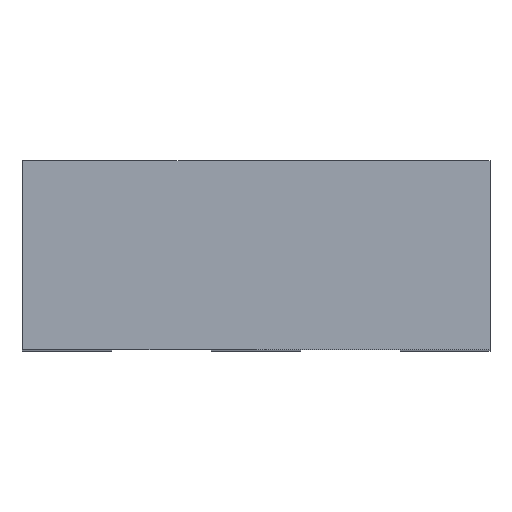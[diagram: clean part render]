
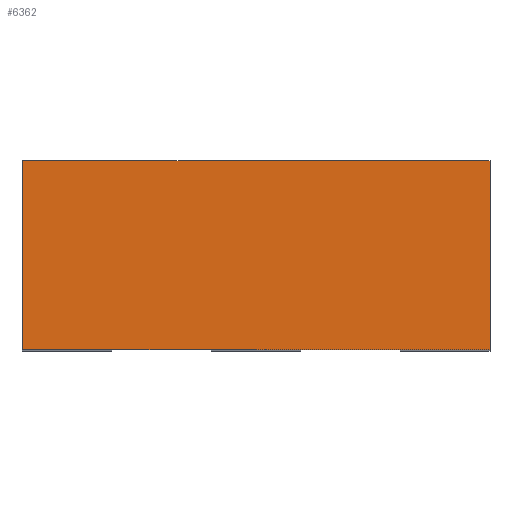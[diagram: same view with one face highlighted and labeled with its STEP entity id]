
A CAD part, top view. The second image highlights one B-rep face of the part: STEP entity #6362.
In plain terms, the highlighted planar face has unit normal (0, 0, 1).
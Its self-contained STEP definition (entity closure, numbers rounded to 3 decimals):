
#24 = VERTEX_POINT('',#25);
#25 = CARTESIAN_POINT('',(-26.,54.,-40.));
#32 = PLANE('',#33);
#33 = AXIS2_PLACEMENT_3D('',#34,#35,#36);
#34 = CARTESIAN_POINT('',(-26.,54.,-44.));
#35 = DIRECTION('',(1.,-0.,-0.));
#36 = DIRECTION('',(0.,0.,-1.));
#44 = PLANE('',#45);
#45 = AXIS2_PLACEMENT_3D('',#46,#47,#48);
#46 = CARTESIAN_POINT('',(-26.,54.,-44.));
#47 = DIRECTION('',(0.,-1.,0.));
#48 = DIRECTION('',(0.,0.,-1.));
#113 = VERTEX_POINT('',#114);
#114 = CARTESIAN_POINT('',(-26.,34.,-40.));
#128 = PLANE('',#129);
#129 = AXIS2_PLACEMENT_3D('',#130,#131,#132);
#130 = CARTESIAN_POINT('',(-26.,34.,-44.));
#131 = DIRECTION('',(-0.,-1.,-0.));
#132 = DIRECTION('',(0.,0.,-1.));
#140 = EDGE_CURVE('',#24,#113,#141,.T.);
#141 = SURFACE_CURVE('',#142,(#146,#153),.PCURVE_S1.);
#142 = LINE('',#143,#144);
#143 = CARTESIAN_POINT('',(-26.,54.,-40.));
#144 = VECTOR('',#145,1.);
#145 = DIRECTION('',(-0.,-1.,-0.));
#146 = PCURVE('',#32,#147);
#147 = DEFINITIONAL_REPRESENTATION('',(#148),#152);
#148 = LINE('',#149,#150);
#149 = CARTESIAN_POINT('',(-4.,0.));
#150 = VECTOR('',#151,1.);
#151 = DIRECTION('',(-0.,-1.));
#152 = ( GEOMETRIC_REPRESENTATION_CONTEXT(2) 
PARAMETRIC_REPRESENTATION_CONTEXT() REPRESENTATION_CONTEXT('2D SPACE',''
  ) );
#153 = PCURVE('',#154,#159);
#154 = PLANE('',#155);
#155 = AXIS2_PLACEMENT_3D('',#156,#157,#158);
#156 = CARTESIAN_POINT('',(-26.,54.,-40.));
#157 = DIRECTION('',(-0.,-0.,1.));
#158 = DIRECTION('',(-1.,0.,0.));
#159 = DEFINITIONAL_REPRESENTATION('',(#160),#164);
#160 = LINE('',#161,#162);
#161 = CARTESIAN_POINT('',(-0.,-0.));
#162 = VECTOR('',#163,1.);
#163 = DIRECTION('',(-0.,1.));
#164 = ( GEOMETRIC_REPRESENTATION_CONTEXT(2) 
PARAMETRIC_REPRESENTATION_CONTEXT() REPRESENTATION_CONTEXT('2D SPACE',''
  ) );
#2279 = PLANE('',#2280);
#2280 = AXIS2_PLACEMENT_3D('',#2281,#2282,#2283);
#2281 = CARTESIAN_POINT('',(23.5,54.,-44.));
#2282 = DIRECTION('',(1.,-0.,-0.));
#2283 = DIRECTION('',(0.,0.,-1.));
#2914 = VERTEX_POINT('',#2915);
#2915 = CARTESIAN_POINT('',(23.5,54.,-40.));
#2993 = VERTEX_POINT('',#2994);
#2994 = CARTESIAN_POINT('',(23.5,34.,-40.));
#3015 = EDGE_CURVE('',#2914,#2993,#3016,.T.);
#3016 = SURFACE_CURVE('',#3017,(#3021,#3028),.PCURVE_S1.);
#3017 = LINE('',#3018,#3019);
#3018 = CARTESIAN_POINT('',(23.5,54.,-40.));
#3019 = VECTOR('',#3020,1.);
#3020 = DIRECTION('',(-0.,-1.,-0.));
#3021 = PCURVE('',#2279,#3022);
#3022 = DEFINITIONAL_REPRESENTATION('',(#3023),#3027);
#3023 = LINE('',#3024,#3025);
#3024 = CARTESIAN_POINT('',(-4.,0.));
#3025 = VECTOR('',#3026,1.);
#3026 = DIRECTION('',(-0.,-1.));
#3027 = ( GEOMETRIC_REPRESENTATION_CONTEXT(2) 
PARAMETRIC_REPRESENTATION_CONTEXT() REPRESENTATION_CONTEXT('2D SPACE',''
  ) );
#3028 = PCURVE('',#154,#3029);
#3029 = DEFINITIONAL_REPRESENTATION('',(#3030),#3034);
#3030 = LINE('',#3031,#3032);
#3031 = CARTESIAN_POINT('',(-49.5,-0.));
#3032 = VECTOR('',#3033,1.);
#3033 = DIRECTION('',(-0.,1.));
#3034 = ( GEOMETRIC_REPRESENTATION_CONTEXT(2) 
PARAMETRIC_REPRESENTATION_CONTEXT() REPRESENTATION_CONTEXT('2D SPACE',''
  ) );
#6362 = ADVANCED_FACE('',(#6363),#154,.T.);
#6363 = FACE_BOUND('',#6364,.F.);
#6364 = EDGE_LOOP('',(#6365,#6366,#6387,#6388));
#6365 = ORIENTED_EDGE('',*,*,#140,.F.);
#6366 = ORIENTED_EDGE('',*,*,#6367,.T.);
#6367 = EDGE_CURVE('',#24,#2914,#6368,.T.);
#6368 = SURFACE_CURVE('',#6369,(#6373,#6380),.PCURVE_S1.);
#6369 = LINE('',#6370,#6371);
#6370 = CARTESIAN_POINT('',(-26.,54.,-40.));
#6371 = VECTOR('',#6372,1.);
#6372 = DIRECTION('',(1.,0.,-0.));
#6373 = PCURVE('',#154,#6374);
#6374 = DEFINITIONAL_REPRESENTATION('',(#6375),#6379);
#6375 = LINE('',#6376,#6377);
#6376 = CARTESIAN_POINT('',(-0.,-0.));
#6377 = VECTOR('',#6378,1.);
#6378 = DIRECTION('',(-1.,-0.));
#6379 = ( GEOMETRIC_REPRESENTATION_CONTEXT(2) 
PARAMETRIC_REPRESENTATION_CONTEXT() REPRESENTATION_CONTEXT('2D SPACE',''
  ) );
#6380 = PCURVE('',#44,#6381);
#6381 = DEFINITIONAL_REPRESENTATION('',(#6382),#6386);
#6382 = LINE('',#6383,#6384);
#6383 = CARTESIAN_POINT('',(-4.,0.));
#6384 = VECTOR('',#6385,1.);
#6385 = DIRECTION('',(-0.,1.));
#6386 = ( GEOMETRIC_REPRESENTATION_CONTEXT(2) 
PARAMETRIC_REPRESENTATION_CONTEXT() REPRESENTATION_CONTEXT('2D SPACE',''
  ) );
#6387 = ORIENTED_EDGE('',*,*,#3015,.T.);
#6388 = ORIENTED_EDGE('',*,*,#6389,.F.);
#6389 = EDGE_CURVE('',#113,#2993,#6390,.T.);
#6390 = SURFACE_CURVE('',#6391,(#6395,#6402),.PCURVE_S1.);
#6391 = LINE('',#6392,#6393);
#6392 = CARTESIAN_POINT('',(-26.,34.,-40.));
#6393 = VECTOR('',#6394,1.);
#6394 = DIRECTION('',(1.,-0.,-0.));
#6395 = PCURVE('',#154,#6396);
#6396 = DEFINITIONAL_REPRESENTATION('',(#6397),#6401);
#6397 = LINE('',#6398,#6399);
#6398 = CARTESIAN_POINT('',(-0.,20.));
#6399 = VECTOR('',#6400,1.);
#6400 = DIRECTION('',(-1.,0.));
#6401 = ( GEOMETRIC_REPRESENTATION_CONTEXT(2) 
PARAMETRIC_REPRESENTATION_CONTEXT() REPRESENTATION_CONTEXT('2D SPACE',''
  ) );
#6402 = PCURVE('',#128,#6403);
#6403 = DEFINITIONAL_REPRESENTATION('',(#6404),#6408);
#6404 = LINE('',#6405,#6406);
#6405 = CARTESIAN_POINT('',(-4.,0.));
#6406 = VECTOR('',#6407,1.);
#6407 = DIRECTION('',(-0.,1.));
#6408 = ( GEOMETRIC_REPRESENTATION_CONTEXT(2) 
PARAMETRIC_REPRESENTATION_CONTEXT() REPRESENTATION_CONTEXT('2D SPACE',''
  ) );
